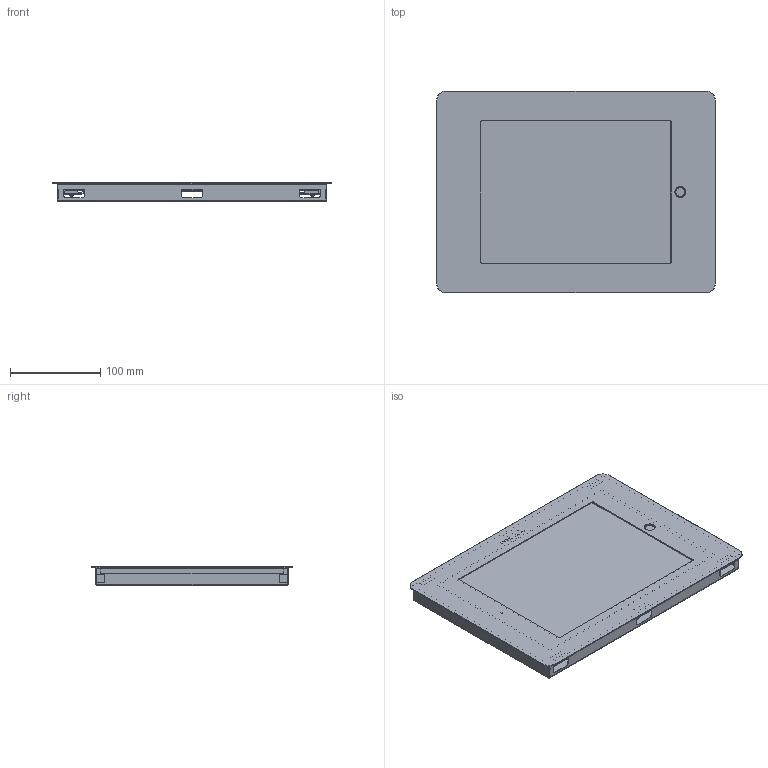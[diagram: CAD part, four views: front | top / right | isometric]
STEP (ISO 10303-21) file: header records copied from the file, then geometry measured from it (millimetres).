
FILE_DESCRIPTION(/* description */ ('','CAx-IF Rec.Pracs.---Representation and Presentation of Product Manufacturing Information (PMI)---4.0---2014-10-13'),/* implementation_level */ '2;1');
FILE_NAME(/* name */ 'FT-01i.step',/* time_stamp */ '2025-02-23T20:23:53+01:00',/* author */ (''),/* organization */ (''),/* preprocessor_version */ 'ST-DEVELOPER v20',/* originating_system */ 'Autodesk Translation Framework v13.20.0.188',/* authorisation */ '');
FILE_SCHEMA (('AP242_MANAGED_MODEL_BASED_3D_ENGINEERING_MIM_LF { 1 0 10303 442 1 1 4 }'));
Length unit declared in the file: millimetre
Products named in the file (11): OP-1420-A; S_043.07.000.00025; iPad8; Ramka; Szkło IPad8; farba; OP-1420-B; S_023.05.000.00002 ocynk; S_023.02.000.00019; S_026.00.000.00009V1	; logo tech ramka tablet
Assembly tree (36 placements, depth 3):
  OP-1420-A
    S_043.07.000.00025
    iPad8
    Ramka
    S_026.00.000.00009V1	  x6
    Szkło IPad8
      farba
    OP-1420-B  x8
    S_023.05.000.00002 ocynk  x8
    S_023.02.000.00019  x8
    logo tech ramka tablet
Bounding box: 308 x 223 x 20.01 mm (x, y, z)
Volume: 477707.3 mm3; surface area: 465740.5 mm2
Topology: 52 solids, 52 shells, 2183 faces, 5306 edges, 3309 vertices
Faces by surface type: plane 920, cylinder 593, bspline 296, cone 222, sphere 84, torus 68
Full cylindrical faces by diameter (mm): 1.4 x26, 2 x1, 2.2 x8, 2.5 x3, 3.2 x8, 3.5 x1, 4 x1, 6 x9, 12.2 x2
Entity records: 50897 total; most frequent: CARTESIAN_POINT 15156, ORIENTED_EDGE 7378, DIRECTION 7080, EDGE_CURVE 3689, AXIS2_PLACEMENT_3D 2486, VERTEX_POINT 2335, LINE 2108, VECTOR 2108
